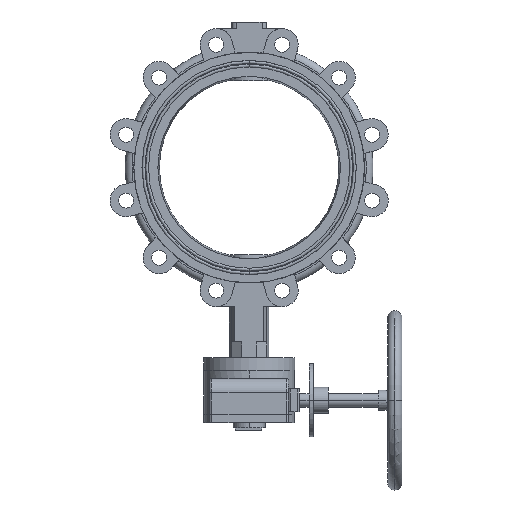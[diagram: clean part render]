
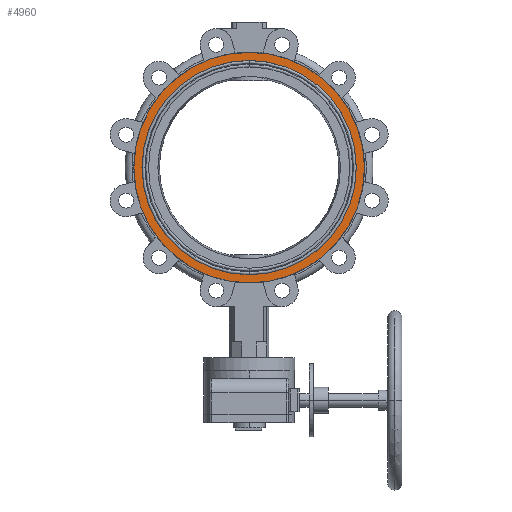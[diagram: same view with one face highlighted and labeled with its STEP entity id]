
A CAD part, front view. The second image highlights one B-rep face of the part: STEP entity #4960.
In plain terms, the highlighted planar face has unit normal (0, -1, 0).
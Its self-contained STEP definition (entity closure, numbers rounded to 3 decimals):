
#134 = ORIENTED_EDGE ( 'NONE', *, *, #7337, .F. ) ;
#205 = DIRECTION ( 'NONE',  ( 0., -1., 0. ) ) ;
#465 = CIRCLE ( 'NONE', #8966, 160.75 ) ;
#502 = VERTEX_POINT ( 'NONE', #6925 ) ;
#868 = CARTESIAN_POINT ( 'NONE',  ( 149., -34., 0. ) ) ;
#1905 = CARTESIAN_POINT ( 'NONE',  ( -149.433, -34., 0. ) ) ;
#2134 = ORIENTED_EDGE ( 'NONE', *, *, #7137, .F. ) ;
#2508 = DIRECTION ( 'NONE',  ( 0., -1., 0. ) ) ;
#2825 = CARTESIAN_POINT ( 'NONE',  ( -160.75, -34., 0. ) ) ;
#3298 = AXIS2_PLACEMENT_3D ( 'NONE', #5924, #5038, #4908 ) ;
#3598 = EDGE_CURVE ( 'NONE', #5730, #502, #10670, .T. ) ;
#3683 = AXIS2_PLACEMENT_3D ( 'NONE', #11587, #2508, #8531 ) ;
#3814 = DIRECTION ( 'NONE',  ( 0., -1., 0. ) ) ;
#4178 = AXIS2_PLACEMENT_3D ( 'NONE', #8475, #205, #4381 ) ;
#4381 = DIRECTION ( 'NONE',  ( 0., 0., -1. ) ) ;
#4670 = CARTESIAN_POINT ( 'NONE',  ( 160.75, -34., 0. ) ) ;
#4849 = FACE_BOUND ( 'NONE', #7009, .T. ) ;
#4908 = DIRECTION ( 'NONE',  ( 0., 0., -1. ) ) ;
#4960 = ADVANCED_FACE ( 'NONE', ( #11049, #4849 ), #6134, .T. ) ;
#5038 = DIRECTION ( 'NONE',  ( 0., 1., 0. ) ) ;
#5098 = VERTEX_POINT ( 'NONE', #2825 ) ;
#5469 = DIRECTION ( 'NONE',  ( 0., 1., 0. ) ) ;
#5730 = VERTEX_POINT ( 'NONE', #1905 ) ;
#5924 = CARTESIAN_POINT ( 'NONE',  ( 0., -34., 0. ) ) ;
#6128 = CIRCLE ( 'NONE', #3298, 160.75 ) ;
#6134 = PLANE ( 'NONE',  #7043 ) ;
#6925 = CARTESIAN_POINT ( 'NONE',  ( 149.433, -34., 0. ) ) ;
#7009 = EDGE_LOOP ( 'NONE', ( #11055, #7318 ) ) ;
#7043 = AXIS2_PLACEMENT_3D ( 'NONE', #868, #3814, #10297 ) ;
#7137 = EDGE_CURVE ( 'NONE', #8066, #5098, #465, .T. ) ;
#7155 = EDGE_CURVE ( 'NONE', #502, #5730, #12213, .T. ) ;
#7318 = ORIENTED_EDGE ( 'NONE', *, *, #3598, .F. ) ;
#7337 = EDGE_CURVE ( 'NONE', #5098, #8066, #6128, .T. ) ;
#7384 = CARTESIAN_POINT ( 'NONE',  ( 0., -34., 0. ) ) ;
#7456 = DIRECTION ( 'NONE',  ( 0., 0., -1. ) ) ;
#8066 = VERTEX_POINT ( 'NONE', #4670 ) ;
#8475 = CARTESIAN_POINT ( 'NONE',  ( 0., -34., 0. ) ) ;
#8531 = DIRECTION ( 'NONE',  ( 0., 0., -1. ) ) ;
#8966 = AXIS2_PLACEMENT_3D ( 'NONE', #7384, #5469, #7456 ) ;
#10297 = DIRECTION ( 'NONE',  ( 0., 0., -1. ) ) ;
#10670 = CIRCLE ( 'NONE', #3683, 149.433 ) ;
#11049 = FACE_OUTER_BOUND ( 'NONE', #13343, .T. ) ;
#11055 = ORIENTED_EDGE ( 'NONE', *, *, #7155, .F. ) ;
#11587 = CARTESIAN_POINT ( 'NONE',  ( 0., -34., 0. ) ) ;
#12213 = CIRCLE ( 'NONE', #4178, 149.433 ) ;
#13343 = EDGE_LOOP ( 'NONE', ( #134, #2134 ) ) ;
